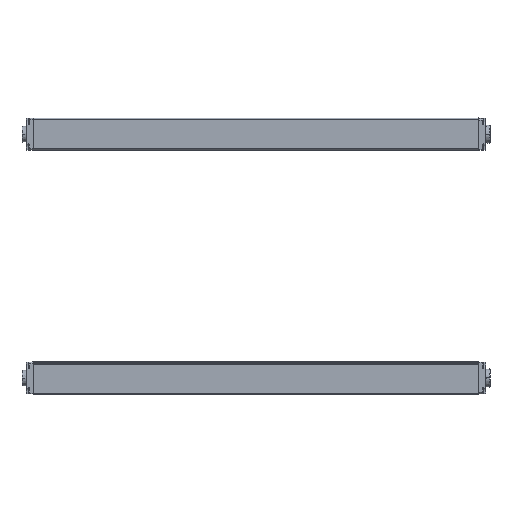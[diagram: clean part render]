
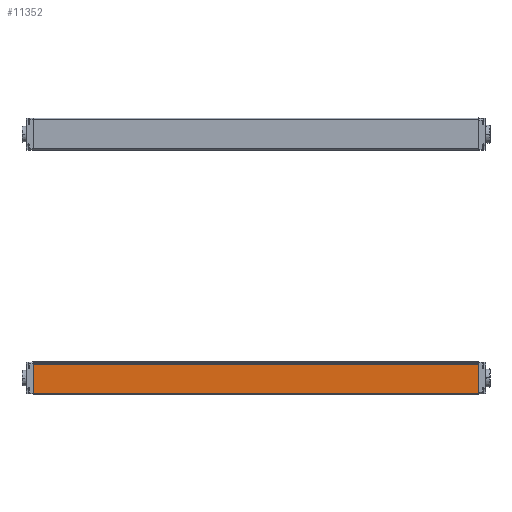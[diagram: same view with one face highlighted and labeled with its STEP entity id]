
A CAD part, left-side view. The second image highlights one B-rep face of the part: STEP entity #11352.
In plain terms, the highlighted planar face has unit normal (-1, 0, -0.009) as drawn and (1, 0, 0) by its records, which use the part's own axes.
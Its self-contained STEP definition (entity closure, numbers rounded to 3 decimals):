
#847 = VECTOR ( 'NONE', #12668, 1000. ) ;
#1213 = DIRECTION ( 'NONE',  ( -1., 0., 0. ) ) ;
#1553 = LINE ( 'NONE', #7132, #847 ) ;
#2039 = LINE ( 'NONE', #7609, #10153 ) ;
#2582 = FACE_OUTER_BOUND ( 'NONE', #11106, .T. ) ;
#2815 = CARTESIAN_POINT ( 'NONE',  ( 15., 420., -16.693 ) ) ;
#3849 = EDGE_CURVE ( 'NONE', #5082, #17699, #15291, .T. ) ;
#4242 = DIRECTION ( 'NONE',  ( 0., -1., 0. ) ) ;
#5082 = VERTEX_POINT ( 'NONE', #15204 ) ;
#5665 = EDGE_CURVE ( 'NONE', #8559, #17699, #2039, .T. ) ;
#6782 = DIRECTION ( 'NONE',  ( 0., 0., 1. ) ) ;
#7013 = ORIENTED_EDGE ( 'NONE', *, *, #9591, .T. ) ;
#7132 = CARTESIAN_POINT ( 'NONE',  ( 15., 0., -16.9 ) ) ;
#7609 = CARTESIAN_POINT ( 'NONE',  ( 15., 420., -16.9 ) ) ;
#8145 = PLANE ( 'NONE',  #17671 ) ;
#8382 = DIRECTION ( 'NONE',  ( 0., 1., 0. ) ) ;
#8411 = VERTEX_POINT ( 'NONE', #12140 ) ;
#8559 = VERTEX_POINT ( 'NONE', #11229 ) ;
#9238 = CARTESIAN_POINT ( 'NONE',  ( 15., 420., -16.693 ) ) ;
#9591 = EDGE_CURVE ( 'NONE', #8559, #8411, #11151, .T. ) ;
#10153 = VECTOR ( 'NONE', #13154, 1000. ) ;
#10988 = ORIENTED_EDGE ( 'NONE', *, *, #3849, .T. ) ;
#11106 = EDGE_LOOP ( 'NONE', ( #11779, #10988, #14768, #7013 ) ) ;
#11151 = LINE ( 'NONE', #16707, #12843 ) ;
#11229 = CARTESIAN_POINT ( 'NONE',  ( 15., 420., 10.9 ) ) ;
#11352 = ADVANCED_FACE ( 'NONE', ( #2582 ), #8145, .F. ) ;
#11779 = ORIENTED_EDGE ( 'NONE', *, *, #12550, .T. ) ;
#12140 = CARTESIAN_POINT ( 'NONE',  ( 15., 0., 10.9 ) ) ;
#12550 = EDGE_CURVE ( 'NONE', #8411, #5082, #1553, .T. ) ;
#12668 = DIRECTION ( 'NONE',  ( 0., 0., -1. ) ) ;
#12843 = VECTOR ( 'NONE', #4242, 1000. ) ;
#13154 = DIRECTION ( 'NONE',  ( 0., 0., -1. ) ) ;
#13693 = CARTESIAN_POINT ( 'NONE',  ( 15., 420., -16.9 ) ) ;
#14768 = ORIENTED_EDGE ( 'NONE', *, *, #5665, .F. ) ;
#15204 = CARTESIAN_POINT ( 'NONE',  ( 15., 0., -16.693 ) ) ;
#15291 = LINE ( 'NONE', #2815, #16070 ) ;
#16070 = VECTOR ( 'NONE', #8382, 1000. ) ;
#16707 = CARTESIAN_POINT ( 'NONE',  ( 15., 420., 10.9 ) ) ;
#17671 = AXIS2_PLACEMENT_3D ( 'NONE', #13693, #1213, #6782 ) ;
#17699 = VERTEX_POINT ( 'NONE', #9238 ) ;
